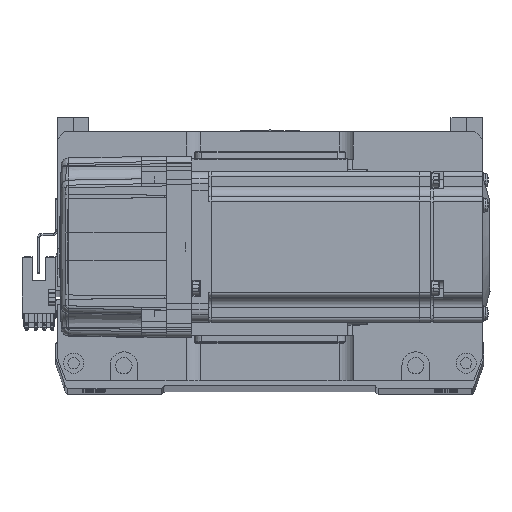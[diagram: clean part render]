
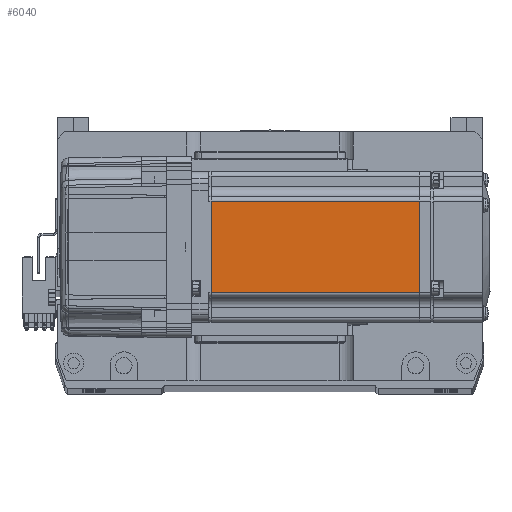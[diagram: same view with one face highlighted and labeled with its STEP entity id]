
A CAD part, top view. The second image highlights one B-rep face of the part: STEP entity #6040.
In plain terms, the highlighted planar face has unit normal (0, 0, 1) as drawn and (0, -1, 0) by its records, which use the part's own axes.
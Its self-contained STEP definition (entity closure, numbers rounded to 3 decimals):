
#397 = DIRECTION ( 'NONE',  ( -1., 0., 0. ) ) ;
#983 = VERTEX_POINT ( 'NONE', #60595 ) ;
#1426 = CARTESIAN_POINT ( 'NONE',  ( -7.75, -30., 18. ) ) ;
#1460 = VECTOR ( 'NONE', #39270, 1000. ) ;
#3032 = LINE ( 'NONE', #48833, #1460 ) ;
#3949 = LINE ( 'NONE', #34626, #42124 ) ;
#6040 = ADVANCED_FACE ( 'NONE', ( #17558 ), #63838, .T. ) ;
#8304 = ORIENTED_EDGE ( 'NONE', *, *, #19548, .T. ) ;
#11610 = AXIS2_PLACEMENT_3D ( 'NONE', #63624, #44211, #48563 ) ;
#13360 = VECTOR ( 'NONE', #52947, 1000. ) ;
#15490 = VECTOR ( 'NONE', #60703, 1000. ) ;
#17558 = FACE_OUTER_BOUND ( 'NONE', #27229, .T. ) ;
#18562 = EDGE_CURVE ( 'NONE', #31646, #46811, #3949, .T. ) ;
#19548 = EDGE_CURVE ( 'NONE', #46811, #40731, #30313, .T. ) ;
#22732 = ORIENTED_EDGE ( 'NONE', *, *, #50337, .T. ) ;
#26655 = ORIENTED_EDGE ( 'NONE', *, *, #55993, .T. ) ;
#27229 = EDGE_LOOP ( 'NONE', ( #26655, #30973, #8304, #22732 ) ) ;
#30313 = LINE ( 'NONE', #55494, #15490 ) ;
#30973 = ORIENTED_EDGE ( 'NONE', *, *, #18562, .T. ) ;
#31646 = VERTEX_POINT ( 'NONE', #1426 ) ;
#32577 = CARTESIAN_POINT ( 'NONE',  ( -90.45, -30., -18. ) ) ;
#32954 = CARTESIAN_POINT ( 'NONE',  ( -7.75, -30., -25. ) ) ;
#34626 = CARTESIAN_POINT ( 'NONE',  ( -6.5, -30., 18. ) ) ;
#39270 = DIRECTION ( 'NONE',  ( 1., 0., 0. ) ) ;
#40731 = VERTEX_POINT ( 'NONE', #32577 ) ;
#42124 = VECTOR ( 'NONE', #397, 1000. ) ;
#44211 = DIRECTION ( 'NONE',  ( 0., -1., 0. ) ) ;
#46101 = LINE ( 'NONE', #32954, #13360 ) ;
#46408 = CARTESIAN_POINT ( 'NONE',  ( -90.45, -30., 18. ) ) ;
#46811 = VERTEX_POINT ( 'NONE', #46408 ) ;
#48563 = DIRECTION ( 'NONE',  ( 0., 0., -1. ) ) ;
#48833 = CARTESIAN_POINT ( 'NONE',  ( -6.5, -30., -18. ) ) ;
#50337 = EDGE_CURVE ( 'NONE', #40731, #983, #3032, .T. ) ;
#52947 = DIRECTION ( 'NONE',  ( 0., 0., 1. ) ) ;
#55494 = CARTESIAN_POINT ( 'NONE',  ( -90.45, -30., -25. ) ) ;
#55993 = EDGE_CURVE ( 'NONE', #983, #31646, #46101, .T. ) ;
#60595 = CARTESIAN_POINT ( 'NONE',  ( -7.75, -30., -18. ) ) ;
#60703 = DIRECTION ( 'NONE',  ( 0., 0., -1. ) ) ;
#63624 = CARTESIAN_POINT ( 'NONE',  ( -6.5, -30., -25. ) ) ;
#63838 = PLANE ( 'NONE',  #11610 ) ;
